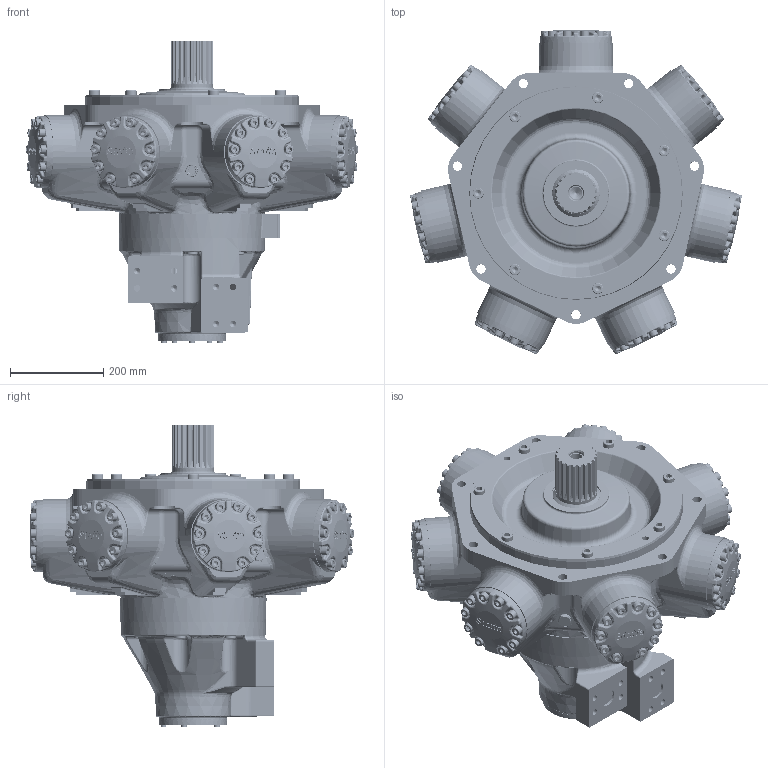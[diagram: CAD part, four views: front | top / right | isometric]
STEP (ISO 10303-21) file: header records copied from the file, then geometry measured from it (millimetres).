
FILE_DESCRIPTION(/* description */ (''),/* implementation_level */ '2;1');
FILE_NAME(/* name */ 'HMC270_Z_FM4_X.stp',/* time_stamp */ '2025-06-16T14:43:22+01:00',/* author */ ('ccallanga'),/* organization */ (''),/* preprocessor_version */ 'ST-DEVELOPER v20',/* originating_system */ 'Autodesk Inventor 2024',/* authorisation */ '');
FILE_SCHEMA (('AUTOMOTIVE_DESIGN { 1 0 10303 214 3 1 1 }'));
Products named in the file (1): 017752 HMC270 Web Assembly_Simplify_1
Bounding box: 711.04 x 695.71 x 648.79 mm (x, y, z)
Volume: 73347452.2 mm3; surface area: 1689390.5 mm2
Topology: 1 solids, 1 shells, 6903 faces, 16989 edges, 10157 vertices
Faces by surface type: bspline 2703, plane 2040, cylinder 1287, torus 525, sphere 178, cone 170
Full cylindrical faces by diameter (mm): 2.2 x4, 11.445 x2, 11.913 x5, 12.7 x5, 13.843 x8, 14.351 x2, 16.51 x1, 19.05 x70, 20 x7, 20.637 x70, 23.825 x14, 25.4 x14, 26.211 x1, 26.92 x2, 30.48 x1, 38.1 x5, 90 x1, 101.575 x1, 106.68 x1, 139.7 x1, 146 x1, 146.05 x1, 311 x1, 311.15 x1, 457.11 x1
Entity records: 301628 total; most frequent: CARTESIAN_POINT 152473, ORIENTED_EDGE 33348, DIRECTION 23082, EDGE_CURVE 16674, VERTEX_POINT 10157, AXIS2_PLACEMENT_3D 8605, EDGE_LOOP 7301, STYLED_ITEM 6904
